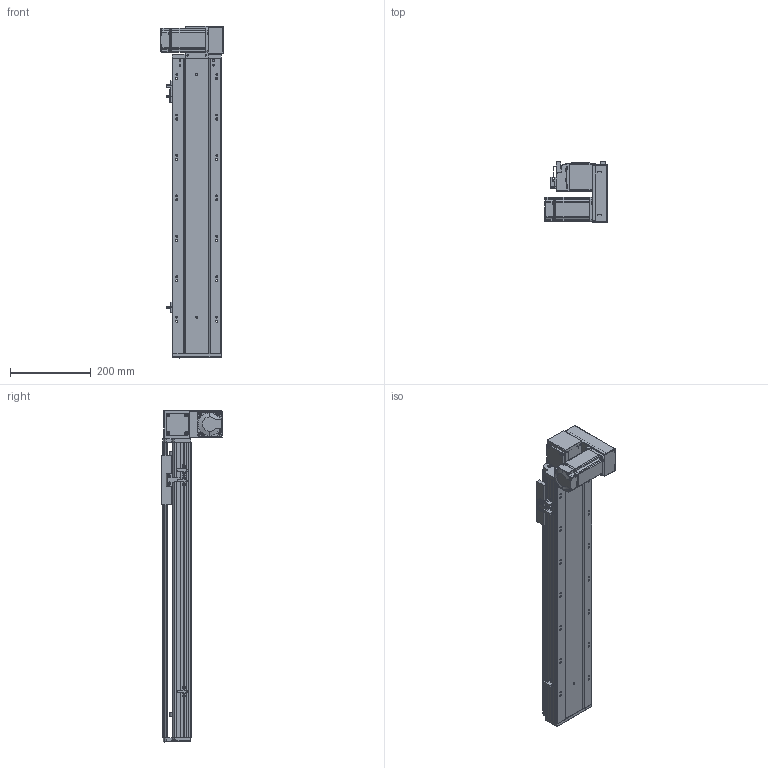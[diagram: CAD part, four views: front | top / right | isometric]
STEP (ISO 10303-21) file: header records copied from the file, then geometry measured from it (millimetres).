
FILE_DESCRIPTION (( 'STEP AP203' ), '1' );
FILE_NAME ('RY120-T-300-DR.SLDASM_500.step', '2021-03-01T03:34:53', ( '盈信电脑' ), ( '东莞市道滘镇水果街19号' ), 'SwSTEP 2.0', 'SolidWorks 2012', '' );
FILE_SCHEMA (( 'CONFIG_CONTROL_DESIGN' ));
Length unit declared in the file: millimetre
Products named in the file (17): RY120外置感应片(140共用）; RY120-T肮祭湍揤踡輸1; RY120-T肮祭湍揤踡輸2; RY120綴裔啣; RY120肮祭湍臏賑輸; RY120-T-300-DR倰第奻裔啣_500; 覜茼ん672; RY120-T-300-DR倰第菁釱_500; RY120-T翋肮祭謫裔啣; 滅袉蝶18-10; RY120-T翋肮祭盓傅釱; 15; RY120-T-300-DR.SLDASM_500; RY120-T主同步轮轴承压盖; RY120-T萇儂欶; RY120-T萇儂假蚾啣; RY120-T蹟翐M4
Assembly tree (22 placements, depth 2):
  RY120-T-300-DR.SLDASM_500
    RY120-T-300-DR倰第菁釱_500
    RY120-T-300-DR倰第奻裔啣_500
    RY120肮祭湍臏賑輸
    RY120綴裔啣
    覜茼ん672  x3
    RY120外置感应片(140共用）
    RY120-T肮祭湍揤踡輸1
    RY120-T肮祭湍揤踡輸2
    RY120-T翋肮祭盓傅釱
    滅袉蝶18-10  x2
    RY120-T翋肮祭謫裔啣
    15
    RY120-T萇儂假蚾啣
    RY120-T蹟翐M4  x4
    RY120-T萇儂欶
    RY120-T主同步轮轴承压盖
Bounding box: 155.5 x 150 x 821 mm (x, y, z)
Volume: 2519477.8 mm3; surface area: 917515.2 mm2
Topology: 23 solids, 23 shells, 2748 faces, 7500 edges, 4830 vertices
Faces by surface type: plane 1412, cylinder 1030, cone 217, bspline 89
Entity records: 87633 total; most frequent: CARTESIAN_POINT 22356, ORIENTED_EDGE 13488, DIRECTION 12702, EDGE_CURVE 6744, VERTEX_POINT 4417, VECTOR 4240, LINE 4240, AXIS2_PLACEMENT_3D 4231
